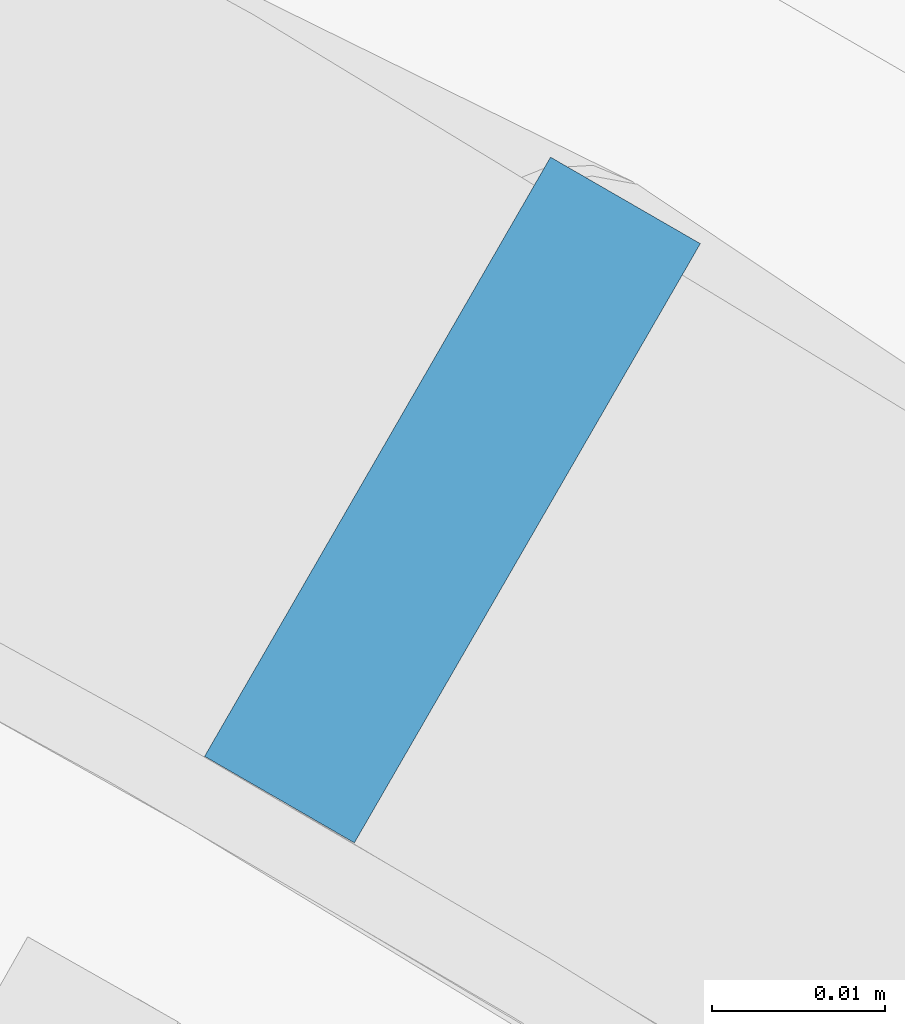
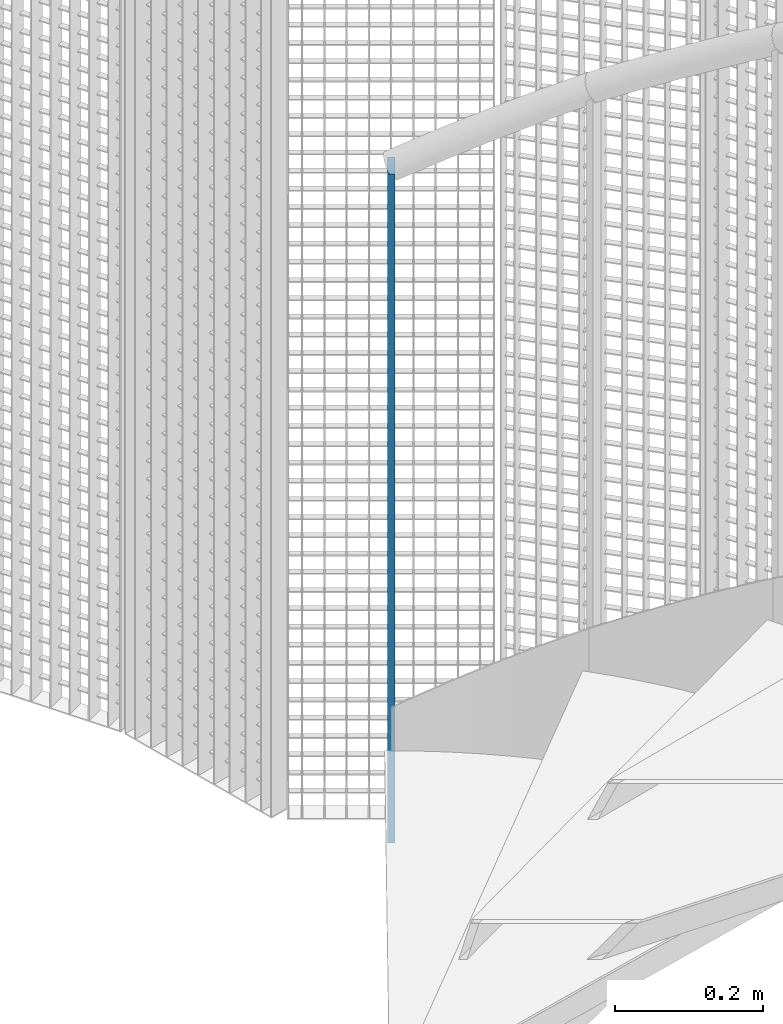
# One storey, part 65 of 1148: 1 column, 1 element without a shape of its own.
"""IFC2X3 building model written with IfcOpenShell, lengths in millimetres."""

from ifc_helpers import new_model, si_unit, frame, origin_with_axes, origin_2d_with_axis, place, context, subcontext, project, spatial, rectangle, extrude, material, type_object, element, aggregate, save


model = new_model("IFC2X3")

# Units and contexts
model_context = context("Model", 3, precision=1e-05, world=origin_with_axes())
body_context = subcontext(model_context, "Body", "Model", "MODEL_VIEW")
ifc_project = project(units=[si_unit("LENGTHUNIT", "METRE", prefix="MILLI"), si_unit("AREAUNIT", "SQUARE_METRE"), si_unit("VOLUMEUNIT", "CUBIC_METRE"), si_unit("MASSUNIT", "GRAM", prefix="KILO"), si_unit("TIMEUNIT", "SECOND"), si_unit("PLANEANGLEUNIT", "RADIAN"), si_unit("SOLIDANGLEUNIT", "STERADIAN"), si_unit("THERMODYNAMICTEMPERATUREUNIT", "DEGREE_CELSIUS"), si_unit("LUMINOUSINTENSITYUNIT", "LUMEN")], contexts=[model_context])

# Site, building, storey
site_placement = place(None, origin_with_axes())
site = spatial("IfcSite", under=ifc_project, at=site_placement, Name="Undefined", CompositionType="ELEMENT")
building_placement = place(site_placement, origin_with_axes())
building = spatial("IfcBuilding", under=site, at=building_placement, Name="Undefined", CompositionType="ELEMENT")
storey_placement = place(building_placement, origin_with_axes())
storey = spatial("IfcBuildingStorey", under=building, at=storey_placement, Name="Undefined", CompositionType="ELEMENT", Elevation=0.0)

# Assembly, column
assembly_placement = place(storey_placement, origin_with_axes())
assembly = element("IfcElementAssembly", 1, at=assembly_placement, inside=storey, Name="MONTANT", AssemblyPlace="NOTDEFINED", PredefinedType="NOTDEFINED")
ifc_material = material(Name="STEEL/S235JR")
column_type = type_object("IfcColumnType", Name="PL10*40", PredefinedType="NOTDEFINED")
column_placement = place(assembly_placement, frame((22127.0000000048, 912.790775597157, 0.0), z_axis=(0.0, 0.0, 1.0), x_axis=(-0.49999999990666, -0.866025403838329, 0.0)))
column = element("IfcColumn", 2, at=column_placement, type_object=column_type, material=ifc_material, Name="MONTANT", context=body_context, shape_type="SweptSolid", body=[
    extrude(rectangle(XDim=10.0, YDim=40.0, at=origin_2d_with_axis()), frame((0.0, 0.0, 1100.0), z_axis=(0.0, 0.0, -1.0), x_axis=(0.0, 1.0, 0.0)), (0.0, 0.0, 1.0), 1100.0),
])
aggregate(assembly, [column])

save(model, "model.ifc")
